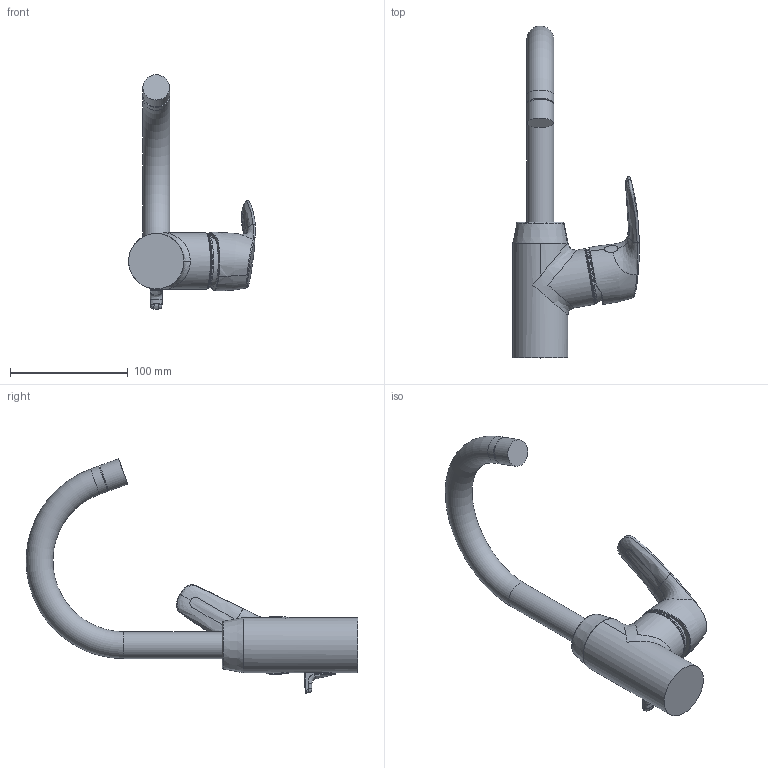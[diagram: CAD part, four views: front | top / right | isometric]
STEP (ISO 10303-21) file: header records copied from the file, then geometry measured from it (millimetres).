
FILE_DESCRIPTION (( 'STEP AP203' ), '1' );
FILE_NAME ('1009F(2017)+45102283.STEP', '2017-03-09T05:39:51', ( '' ), ( '' ), 'SwSTEP 2.0', 'SolidWorks 2016', '' );
FILE_SCHEMA (( 'CONFIG_CONTROL_DESIGN' ));
Length unit declared in the file: millimetre
Products named in the file (1): 1009F(2017)+45102283
Bounding box: 107.65 x 281.88 x 199.16 mm (x, y, z)
Volume: 448239.1 mm3; surface area: 56808.7 mm2
Topology: 1 solids, 1 shells, 100 faces, 228 edges, 139 vertices
Faces by surface type: bspline 63, cylinder 17, plane 14, torus 4, sphere 1, cone 1
Full cylindrical faces by diameter (mm): 3.838 x1, 20.876 x1, 22.8 x3, 46.46 x2, 47 x1, 48 x1
Entity records: 18227 total; most frequent: CARTESIAN_POINT 16526, ORIENTED_EDGE 412, EDGE_CURVE 206, DIRECTION 168, B_SPLINE_CURVE_WITH_KNOTS 151, VERTEX_POINT 132, EDGE_LOOP 122, FACE_OUTER_BOUND 114
